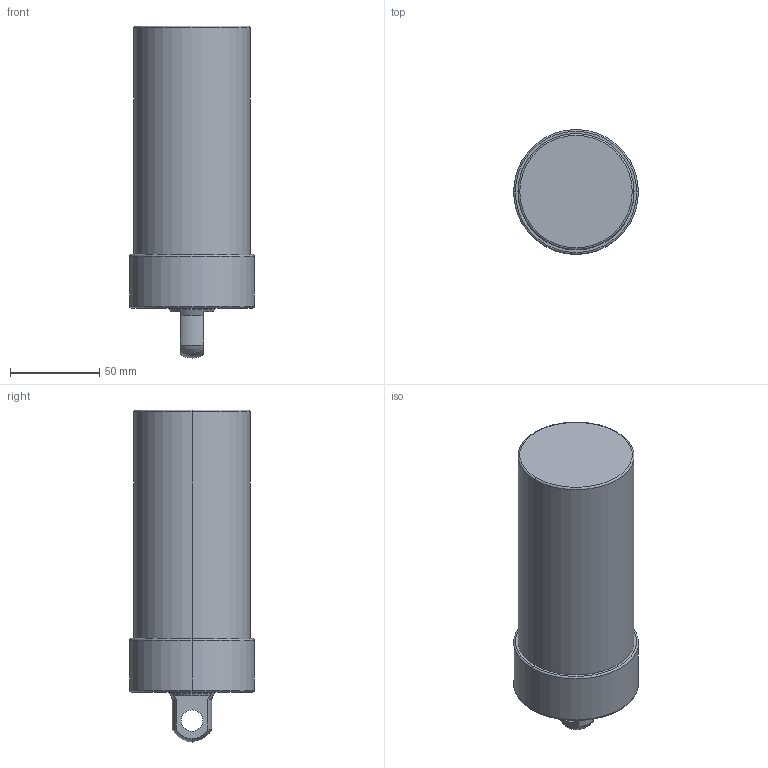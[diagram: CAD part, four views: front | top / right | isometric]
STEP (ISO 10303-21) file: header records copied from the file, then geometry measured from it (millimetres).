
FILE_DESCRIPTION (( 'STEP AP203' ), '1' );
FILE_NAME ('CLLU-065GP-095.STEP', '2020-01-08T00:32:56', ( '' ), ( '' ), 'SwSTEP 2.0', 'SolidWorks 2015', '' );
FILE_SCHEMA (( 'CONFIG_CONTROL_DESIGN' ));
Length unit declared in the file: millimetre
Products named in the file (1): CLLU-065GP-095
Bounding box: 70 x 70 x 186 mm (x, y, z)
Volume: 544282.1 mm3; surface area: 43094 mm2
Topology: 1 solids, 1 shells, 57 faces, 130 edges, 75 vertices
Faces by surface type: cylinder 22, cone 18, plane 9, torus 6, sphere 2
Entity records: 1643 total; most frequent: DIRECTION 308, CARTESIAN_POINT 267, ORIENTED_EDGE 244, AXIS2_PLACEMENT_3D 132, EDGE_CURVE 122, VERTEX_POINT 75, CIRCLE 74, EDGE_LOOP 67
